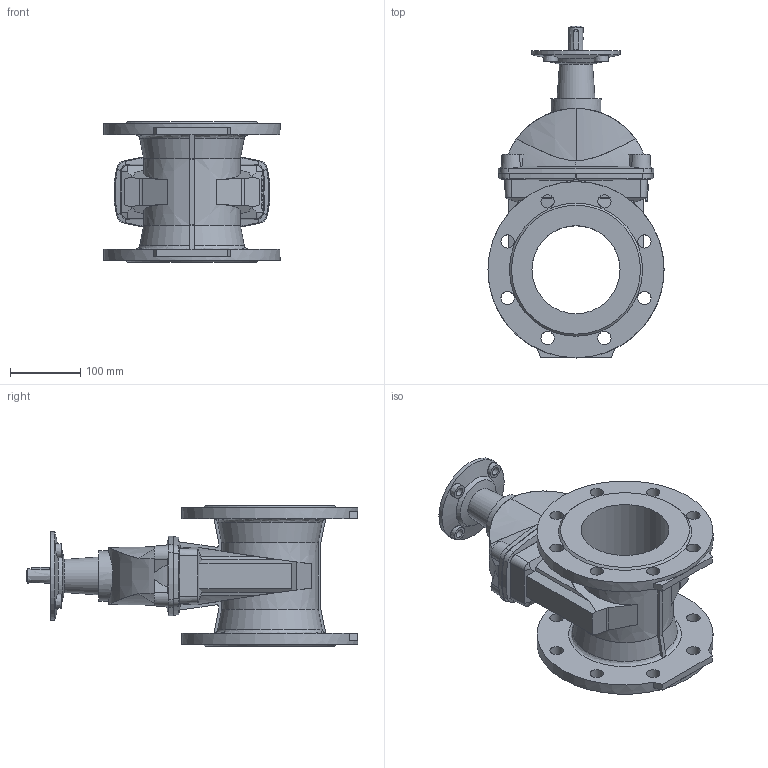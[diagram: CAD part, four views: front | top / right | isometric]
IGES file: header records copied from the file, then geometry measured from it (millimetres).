
Start section: SolidWorks IGES file using analytic representation for surfaces
Global section: file name: \\avksan2\techshare\PBM outline export from Enovia\O_15_42_DN125_X1XXX099_AA0.igs; native system: SolidWorks 2012; preprocessor: SolidWorks 2012; author: pbm; date: 170310.093909; units: inch
Bounding box: 250 x 471 x 200 mm (x, y, z)
Surface area: 474338.4 mm2 (no closed solid volume)
Topology: 0 solids, 0 shells, 296 faces, 2042 edges, 1971 vertices
Faces by surface type: bspline 179, revolution 117
